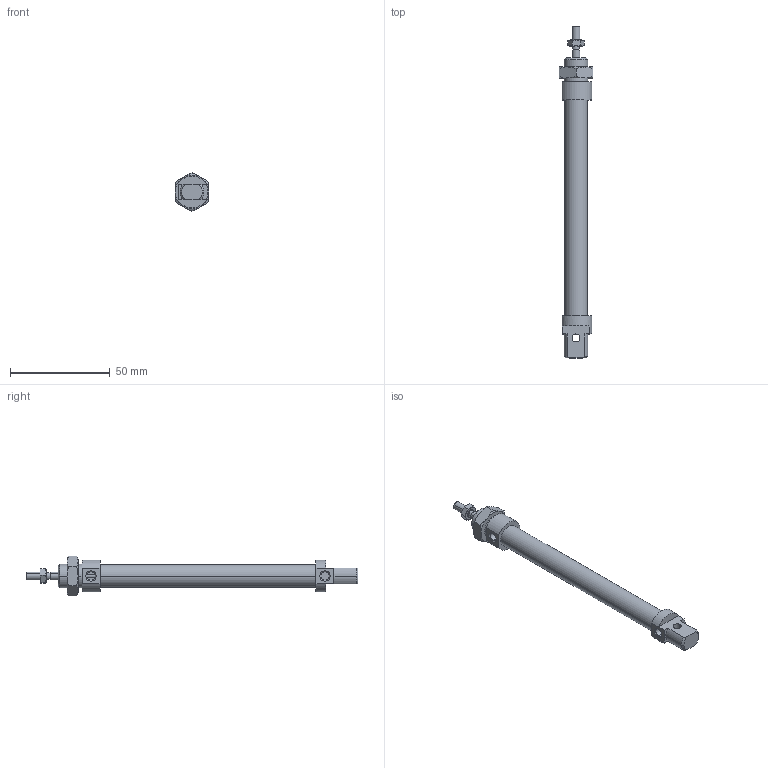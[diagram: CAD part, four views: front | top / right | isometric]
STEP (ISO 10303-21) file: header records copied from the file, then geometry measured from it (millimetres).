
FILE_DESCRIPTION((''),'2;1');
FILE_NAME('I:\DOC-EDP\Lib-3d\1200\CILINDRI\1280\1280_10_0080.stp','2003-04-07T14:46:53',('maffial1'),(''),'Autodesk Inventor (R) 6.0','Autodesk Inventor (R) 6.0','');
FILE_SCHEMA(('AUTOMOTIVE_DESIGN { 1 0 10303 214 1 1 1 1 }'));
Length unit declared in the file: millimetre
Products named in the file (5): 1280_10_0080; S1280_10_80; 1200_10_05; 1200_10_06; C1280_10_80
Assembly tree (4 placements, depth 2):
  1280_10_0080
    S1280_10_80
    1200_10_05
    1200_10_06
    C1280_10_80
Bounding box: 17 x 166 x 19.63 mm (x, y, z)
Volume: 17139.2 mm3; surface area: 10004 mm2
Topology: 4 solids, 4 shells, 117 faces, 261 edges, 158 vertices
Faces by surface type: cone 40, plane 34, cylinder 22, bspline 21
Entity records: 3582 total; most frequent: CARTESIAN_POINT 992, DIRECTION 531, ORIENTED_EDGE 522, EDGE_CURVE 261, AXIS2_PLACEMENT_3D 221, VERTEX_POINT 158, EDGE_LOOP 131, FACE_OUTER_BOUND 117
